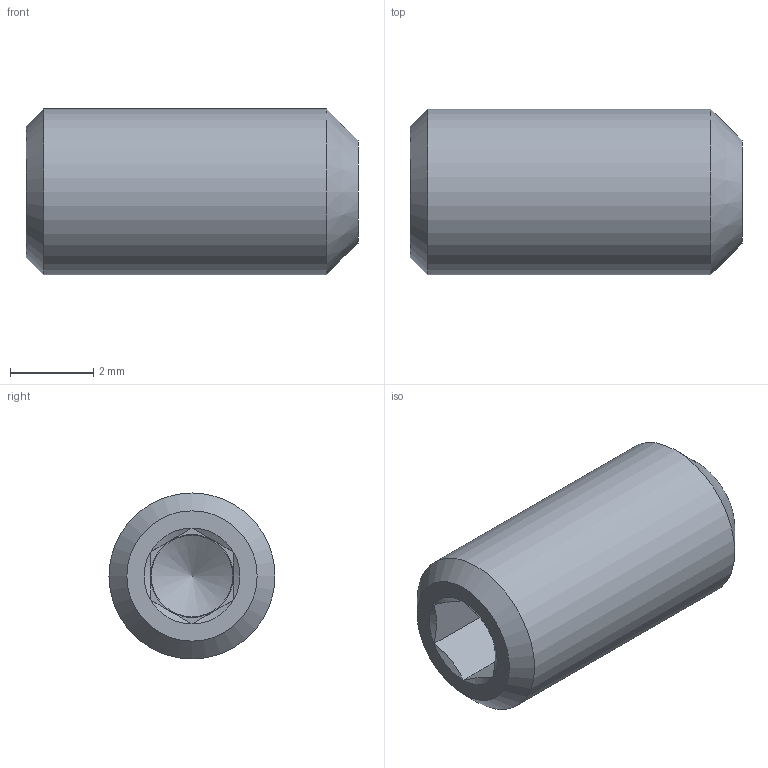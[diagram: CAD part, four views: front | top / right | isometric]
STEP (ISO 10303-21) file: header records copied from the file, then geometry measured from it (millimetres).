
FILE_DESCRIPTION(/* description */ ('BN 617-Hex socket set screws with flat point (ISO 4026; DIN 913), A2, stainless steel A2'),/* implementation_level */ '2;1');
FILE_NAME(/* name */ 'C:\ADSK_DMS_WS\Designs\Vorschläge\Loc Schalen\Schraubenlängebestimmung\Schrauben\Gewindestift M4x8mm A2.stp',/* time_stamp */ '2021-10-05T14:05:43+02:00',/* author */ ('gm'),/* organization */ ('BOSSARD'),/* preprocessor_version */ 'ST-DEVELOPER v16.5',/* originating_system */ 'Autodesk Inventor 2017',/* authorisation */ '');
FILE_SCHEMA (('AUTOMOTIVE_DESIGN { 1 0 10303 214 3 1 1 }'));
Length unit declared in the file: millimetre
Products named in the file (1): Gewindestift M4x8mm
Bounding box: 8 x 4 x 4 mm (x, y, z)
Volume: 87.1 mm3; surface area: 133.6 mm2
Topology: 1 solids, 1 shells, 26 faces, 48 edges, 25 vertices
Faces by surface type: plane 15, cone 9, cylinder 2
Full cylindrical faces by diameter (mm): 2 x1, 4 x1
Entity records: 606 total; most frequent: DIRECTION 108, CARTESIAN_POINT 105, ORIENTED_EDGE 84, AXIS2_PLACEMENT_3D 45, EDGE_CURVE 42, EDGE_LOOP 32, FACE_OUTER_BOUND 26, ADVANCED_FACE 26
